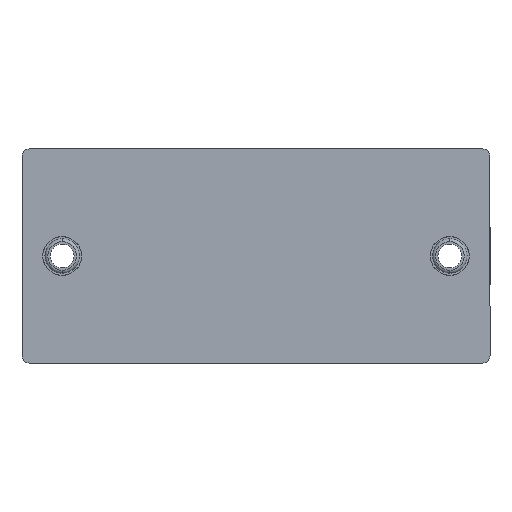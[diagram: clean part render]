
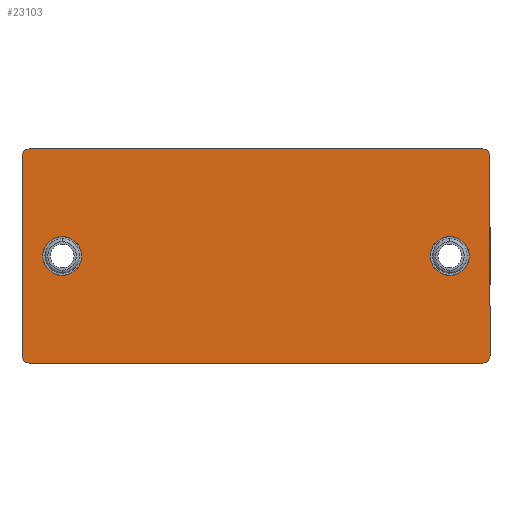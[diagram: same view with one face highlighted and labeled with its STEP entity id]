
A CAD part, front view. The second image highlights one B-rep face of the part: STEP entity #23103.
In plain terms, the highlighted planar face has unit normal (0, -1, 0).
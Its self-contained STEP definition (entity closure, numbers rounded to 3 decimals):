
#751 = CARTESIAN_POINT ( 'NONE',  ( 6.95, 0., -18.498 ) ) ;
#1153 = EDGE_LOOP ( 'NONE', ( #40290, #32131, #12896, #9869, #22066, #2355, #22245, #38586 ) ) ;
#1408 = CARTESIAN_POINT ( 'NONE',  ( 1.3, 0., -1.3 ) ) ;
#2355 = ORIENTED_EDGE ( 'NONE', *, *, #45411, .T. ) ;
#2816 = DIRECTION ( 'NONE',  ( 1., 0., 0. ) ) ;
#3332 = AXIS2_PLACEMENT_3D ( 'NONE', #1408, #32734, #5953 ) ;
#3768 = VERTEX_POINT ( 'NONE', #54367 ) ;
#3871 = CARTESIAN_POINT ( 'NONE',  ( 80.9, 0., 0. ) ) ;
#3879 = DIRECTION ( 'NONE',  ( 0., -1., 0. ) ) ;
#4900 = AXIS2_PLACEMENT_3D ( 'NONE', #25090, #56531, #29593 ) ;
#5311 = DIRECTION ( 'NONE',  ( 0., 0., -1. ) ) ;
#5794 = EDGE_CURVE ( 'NONE', #8928, #8415, #5936, .T. ) ;
#5805 = AXIS2_PLACEMENT_3D ( 'NONE', #751, #32087, #5311 ) ;
#5936 = CIRCLE ( 'NONE', #26661, 3.356 ) ;
#5953 = DIRECTION ( 'NONE',  ( 0., 0., -1. ) ) ;
#6876 = VECTOR ( 'NONE', #38871, 1000. ) ;
#6915 = CARTESIAN_POINT ( 'NONE',  ( 0., 0., 0. ) ) ;
#7464 = VERTEX_POINT ( 'NONE', #15593 ) ;
#7493 = CARTESIAN_POINT ( 'NONE',  ( 0., 0., 0. ) ) ;
#7960 = AXIS2_PLACEMENT_3D ( 'NONE', #13593, #44940, #18062 ) ;
#8383 = CARTESIAN_POINT ( 'NONE',  ( 73.95, 0., -15.142 ) ) ;
#8415 = VERTEX_POINT ( 'NONE', #20815 ) ;
#8928 = VERTEX_POINT ( 'NONE', #56122 ) ;
#9165 = DIRECTION ( 'NONE',  ( 0., -1., 0. ) ) ;
#9404 = CARTESIAN_POINT ( 'NONE',  ( 79.6, 0., 0. ) ) ;
#9428 = VERTEX_POINT ( 'NONE', #9404 ) ;
#9492 = CIRCLE ( 'NONE', #3332, 1.3 ) ;
#9869 = ORIENTED_EDGE ( 'NONE', *, *, #42646, .T. ) ;
#11893 = EDGE_CURVE ( 'NONE', #55013, #34171, #47571, .T. ) ;
#12255 = VERTEX_POINT ( 'NONE', #43322 ) ;
#12279 = DIRECTION ( 'NONE',  ( -1., 0., 0. ) ) ;
#12896 = ORIENTED_EDGE ( 'NONE', *, *, #50487, .F. ) ;
#13593 = CARTESIAN_POINT ( 'NONE',  ( 73.95, 0., -18.498 ) ) ;
#13739 = AXIS2_PLACEMENT_3D ( 'NONE', #36011, #9165, #40556 ) ;
#13781 = VECTOR ( 'NONE', #2816, 1000. ) ;
#15593 = CARTESIAN_POINT ( 'NONE',  ( 0., 0., -35.7 ) ) ;
#17811 = VERTEX_POINT ( 'NONE', #29277 ) ;
#17935 = EDGE_LOOP ( 'NONE', ( #49223, #26471 ) ) ;
#18049 = CIRCLE ( 'NONE', #28645, 1.3 ) ;
#18062 = DIRECTION ( 'NONE',  ( 0., 0., -1. ) ) ;
#19098 = CIRCLE ( 'NONE', #13739, 1.3 ) ;
#19645 = DIRECTION ( 'NONE',  ( 0., -1., 0. ) ) ;
#19771 = LINE ( 'NONE', #43637, #31723 ) ;
#19955 = CARTESIAN_POINT ( 'NONE',  ( 6.95, 0., -18.498 ) ) ;
#20815 = CARTESIAN_POINT ( 'NONE',  ( 6.95, 0., -15.142 ) ) ;
#22066 = ORIENTED_EDGE ( 'NONE', *, *, #52675, .F. ) ;
#22245 = ORIENTED_EDGE ( 'NONE', *, *, #25113, .F. ) ;
#22416 = DIRECTION ( 'NONE',  ( 0., -1., 0. ) ) ;
#23103 = ADVANCED_FACE ( 'NONE', ( #42340, #54330, #52940 ), #39542, .T. ) ;
#24490 = DIRECTION ( 'NONE',  ( 0., 0., -1. ) ) ;
#25090 = CARTESIAN_POINT ( 'NONE',  ( 73.95, 0., -18.498 ) ) ;
#25113 = EDGE_CURVE ( 'NONE', #7464, #35444, #41259, .T. ) ;
#25868 = EDGE_CURVE ( 'NONE', #8415, #8928, #49537, .T. ) ;
#26179 = CARTESIAN_POINT ( 'NONE',  ( 0., 0., 0. ) ) ;
#26471 = ORIENTED_EDGE ( 'NONE', *, *, #11893, .F. ) ;
#26661 = AXIS2_PLACEMENT_3D ( 'NONE', #19955, #51434, #24490 ) ;
#27086 = LINE ( 'NONE', #6915, #13781 ) ;
#28645 = AXIS2_PLACEMENT_3D ( 'NONE', #49354, #22416, #53866 ) ;
#28692 = VERTEX_POINT ( 'NONE', #45197 ) ;
#29277 = CARTESIAN_POINT ( 'NONE',  ( 80.9, 0., -35.7 ) ) ;
#29456 = CARTESIAN_POINT ( 'NONE',  ( 73.95, 0., -21.854 ) ) ;
#29593 = DIRECTION ( 'NONE',  ( 0., 0., -1. ) ) ;
#31723 = VECTOR ( 'NONE', #12279, 1000. ) ;
#32087 = DIRECTION ( 'NONE',  ( 0., -1., 0. ) ) ;
#32131 = ORIENTED_EDGE ( 'NONE', *, *, #43683, .T. ) ;
#32734 = DIRECTION ( 'NONE',  ( 0., -1., 0. ) ) ;
#33709 = AXIS2_PLACEMENT_3D ( 'NONE', #26179, #3879, #35176 ) ;
#34171 = VERTEX_POINT ( 'NONE', #29456 ) ;
#34995 = CIRCLE ( 'NONE', #4900, 3.356 ) ;
#35176 = DIRECTION ( 'NONE',  ( 0., 0., -1. ) ) ;
#35426 = EDGE_CURVE ( 'NONE', #28692, #12255, #19771, .T. ) ;
#35444 = VERTEX_POINT ( 'NONE', #52731 ) ;
#35705 = EDGE_CURVE ( 'NONE', #7464, #12255, #44306, .T. ) ;
#35909 = ORIENTED_EDGE ( 'NONE', *, *, #5794, .F. ) ;
#36011 = CARTESIAN_POINT ( 'NONE',  ( 79.6, 0., -35.7 ) ) ;
#38453 = VERTEX_POINT ( 'NONE', #39921 ) ;
#38586 = ORIENTED_EDGE ( 'NONE', *, *, #35705, .T. ) ;
#38871 = DIRECTION ( 'NONE',  ( 0., 0., 1. ) ) ;
#39379 = EDGE_CURVE ( 'NONE', #34171, #55013, #34995, .T. ) ;
#39542 = PLANE ( 'NONE',  #33709 ) ;
#39921 = CARTESIAN_POINT ( 'NONE',  ( 1.3, 0., 0. ) ) ;
#40290 = ORIENTED_EDGE ( 'NONE', *, *, #35426, .F. ) ;
#40556 = DIRECTION ( 'NONE',  ( 0., 0., -1. ) ) ;
#41259 = LINE ( 'NONE', #7493, #6876 ) ;
#42340 = FACE_BOUND ( 'NONE', #17935, .T. ) ;
#42646 = EDGE_CURVE ( 'NONE', #3768, #9428, #18049, .T. ) ;
#43322 = CARTESIAN_POINT ( 'NONE',  ( 1.3, 0., -37. ) ) ;
#43637 = CARTESIAN_POINT ( 'NONE',  ( 0., 0., -37. ) ) ;
#43683 = EDGE_CURVE ( 'NONE', #28692, #17811, #19098, .T. ) ;
#44306 = CIRCLE ( 'NONE', #50080, 1.3 ) ;
#44940 = DIRECTION ( 'NONE',  ( 0., -1., 0. ) ) ;
#45197 = CARTESIAN_POINT ( 'NONE',  ( 79.6, 0., -37. ) ) ;
#45411 = EDGE_CURVE ( 'NONE', #38453, #35444, #9492, .T. ) ;
#46556 = CARTESIAN_POINT ( 'NONE',  ( 1.3, 0., -35.7 ) ) ;
#47571 = CIRCLE ( 'NONE', #7960, 3.356 ) ;
#47891 = LINE ( 'NONE', #3871, #52139 ) ;
#48419 = DIRECTION ( 'NONE',  ( 0., 0., -1. ) ) ;
#49223 = ORIENTED_EDGE ( 'NONE', *, *, #39379, .F. ) ;
#49354 = CARTESIAN_POINT ( 'NONE',  ( 79.6, 0., -1.3 ) ) ;
#49537 = CIRCLE ( 'NONE', #5805, 3.356 ) ;
#49869 = ORIENTED_EDGE ( 'NONE', *, *, #25868, .F. ) ;
#50080 = AXIS2_PLACEMENT_3D ( 'NONE', #46556, #19645, #51138 ) ;
#50487 = EDGE_CURVE ( 'NONE', #3768, #17811, #47891, .T. ) ;
#51138 = DIRECTION ( 'NONE',  ( 0., 0., -1. ) ) ;
#51434 = DIRECTION ( 'NONE',  ( 0., -1., 0. ) ) ;
#51697 = EDGE_LOOP ( 'NONE', ( #35909, #49869 ) ) ;
#52139 = VECTOR ( 'NONE', #48419, 1000. ) ;
#52675 = EDGE_CURVE ( 'NONE', #38453, #9428, #27086, .T. ) ;
#52731 = CARTESIAN_POINT ( 'NONE',  ( 0., 0., -1.3 ) ) ;
#52940 = FACE_OUTER_BOUND ( 'NONE', #1153, .T. ) ;
#53866 = DIRECTION ( 'NONE',  ( 0., 0., -1. ) ) ;
#54330 = FACE_BOUND ( 'NONE', #51697, .T. ) ;
#54367 = CARTESIAN_POINT ( 'NONE',  ( 80.9, 0., -1.3 ) ) ;
#55013 = VERTEX_POINT ( 'NONE', #8383 ) ;
#56122 = CARTESIAN_POINT ( 'NONE',  ( 6.95, 0., -21.854 ) ) ;
#56531 = DIRECTION ( 'NONE',  ( 0., -1., 0. ) ) ;
